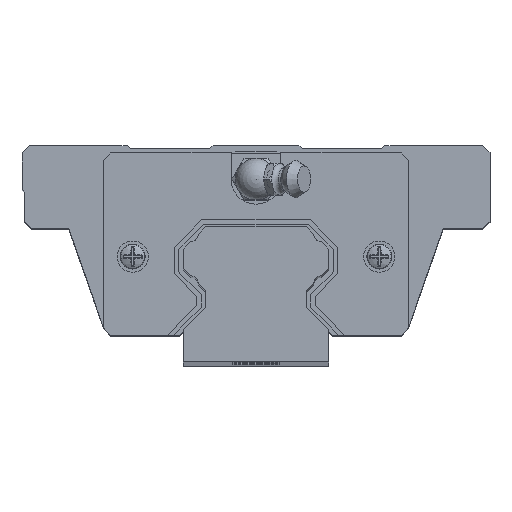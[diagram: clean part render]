
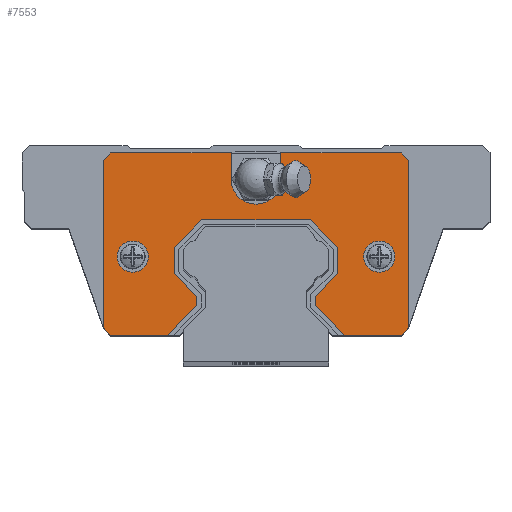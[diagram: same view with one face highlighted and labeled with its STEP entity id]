
A CAD part, top view. The second image highlights one B-rep face of the part: STEP entity #7553.
In plain terms, the highlighted planar face has unit normal (0, 0, 1).
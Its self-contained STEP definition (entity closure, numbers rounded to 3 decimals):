
#586=LINE('',#12169,#1378);
#590=LINE('',#12177,#1382);
#591=LINE('',#12179,#1383);
#592=LINE('',#12181,#1384);
#593=LINE('',#12183,#1385);
#594=LINE('',#12185,#1386);
#595=LINE('',#12187,#1387);
#596=LINE('',#12189,#1388);
#597=LINE('',#12191,#1389);
#598=LINE('',#12193,#1390);
#599=LINE('',#12195,#1391);
#600=LINE('',#12197,#1392);
#601=LINE('',#12199,#1393);
#602=LINE('',#12201,#1394);
#603=LINE('',#12203,#1395);
#604=LINE('',#12205,#1396);
#605=LINE('',#12207,#1397);
#606=LINE('',#12209,#1398);
#607=LINE('',#12213,#1399);
#608=LINE('',#12215,#1400);
#609=LINE('',#12217,#1401);
#610=LINE('',#12219,#1402);
#611=LINE('',#12220,#1403);
#1378=VECTOR('',#9882,1000.);
#1382=VECTOR('',#9888,1000.);
#1383=VECTOR('',#9889,1000.);
#1384=VECTOR('',#9890,1000.);
#1385=VECTOR('',#9891,1000.);
#1386=VECTOR('',#9892,1000.);
#1387=VECTOR('',#9893,1000.);
#1388=VECTOR('',#9894,1000.);
#1389=VECTOR('',#9895,1000.);
#1390=VECTOR('',#9896,1000.);
#1391=VECTOR('',#9897,1000.);
#1392=VECTOR('',#9898,1000.);
#1393=VECTOR('',#9899,1000.);
#1394=VECTOR('',#9900,1000.);
#1395=VECTOR('',#9901,1000.);
#1396=VECTOR('',#9902,1000.);
#1397=VECTOR('',#9903,1000.);
#1398=VECTOR('',#9904,1000.);
#1399=VECTOR('',#9907,1000.);
#1400=VECTOR('',#9908,1000.);
#1401=VECTOR('',#9909,1000.);
#1402=VECTOR('',#9910,1000.);
#1403=VECTOR('',#9911,1000.);
#1851=PLANE('',#8215);
#2139=FACE_BOUND('',#2973,.T.);
#2140=FACE_BOUND('',#2974,.T.);
#2476=FACE_OUTER_BOUND('',#2972,.T.);
#2972=EDGE_LOOP('',(#6602,#6603,#6604,#6605,#6606,#6607,#6608,#6609,#6610,
#6611,#6612,#6613,#6614,#6615,#6616,#6617,#6618,#6619,#6620,#6621,#6622,
#6623,#6624,#6625));
#2973=EDGE_LOOP('',(#6626));
#2974=EDGE_LOOP('',(#6627));
#3297=CIRCLE('',#8192,2.993);
#3299=CIRCLE('',#8195,2.993);
#3315=CIRCLE('',#8216,4.8);
#3865=VERTEX_POINT('',#12118);
#3867=VERTEX_POINT('',#12123);
#3887=VERTEX_POINT('',#12166);
#3888=VERTEX_POINT('',#12168);
#3891=VERTEX_POINT('',#12176);
#3892=VERTEX_POINT('',#12178);
#3893=VERTEX_POINT('',#12180);
#3894=VERTEX_POINT('',#12182);
#3895=VERTEX_POINT('',#12184);
#3896=VERTEX_POINT('',#12186);
#3897=VERTEX_POINT('',#12188);
#3898=VERTEX_POINT('',#12190);
#3899=VERTEX_POINT('',#12192);
#3900=VERTEX_POINT('',#12194);
#3901=VERTEX_POINT('',#12196);
#3902=VERTEX_POINT('',#12198);
#3903=VERTEX_POINT('',#12200);
#3904=VERTEX_POINT('',#12202);
#3905=VERTEX_POINT('',#12204);
#3906=VERTEX_POINT('',#12206);
#3907=VERTEX_POINT('',#12208);
#3908=VERTEX_POINT('',#12210);
#3909=VERTEX_POINT('',#12212);
#3910=VERTEX_POINT('',#12214);
#3911=VERTEX_POINT('',#12216);
#3912=VERTEX_POINT('',#12218);
#4814=EDGE_CURVE('',#3865,#3865,#3297,.T.);
#4816=EDGE_CURVE('',#3867,#3867,#3299,.T.);
#4836=EDGE_CURVE('',#3888,#3887,#586,.T.);
#4840=EDGE_CURVE('',#3887,#3891,#590,.T.);
#4841=EDGE_CURVE('',#3891,#3892,#591,.T.);
#4842=EDGE_CURVE('',#3892,#3893,#592,.T.);
#4843=EDGE_CURVE('',#3893,#3894,#593,.T.);
#4844=EDGE_CURVE('',#3894,#3895,#594,.T.);
#4845=EDGE_CURVE('',#3895,#3896,#595,.T.);
#4846=EDGE_CURVE('',#3896,#3897,#596,.T.);
#4847=EDGE_CURVE('',#3897,#3898,#597,.T.);
#4848=EDGE_CURVE('',#3898,#3899,#598,.T.);
#4849=EDGE_CURVE('',#3899,#3900,#599,.T.);
#4850=EDGE_CURVE('',#3900,#3901,#600,.T.);
#4851=EDGE_CURVE('',#3901,#3902,#601,.T.);
#4852=EDGE_CURVE('',#3902,#3903,#602,.T.);
#4853=EDGE_CURVE('',#3903,#3904,#603,.T.);
#4854=EDGE_CURVE('',#3904,#3905,#604,.T.);
#4855=EDGE_CURVE('',#3905,#3906,#605,.T.);
#4856=EDGE_CURVE('',#3906,#3907,#606,.T.);
#4857=EDGE_CURVE('',#3907,#3908,#3315,.T.);
#4858=EDGE_CURVE('',#3908,#3909,#607,.T.);
#4859=EDGE_CURVE('',#3909,#3910,#608,.T.);
#4860=EDGE_CURVE('',#3910,#3911,#609,.T.);
#4861=EDGE_CURVE('',#3911,#3912,#610,.T.);
#4862=EDGE_CURVE('',#3912,#3888,#611,.T.);
#6602=ORIENTED_EDGE('',*,*,#4840,.T.);
#6603=ORIENTED_EDGE('',*,*,#4841,.T.);
#6604=ORIENTED_EDGE('',*,*,#4842,.T.);
#6605=ORIENTED_EDGE('',*,*,#4843,.T.);
#6606=ORIENTED_EDGE('',*,*,#4844,.T.);
#6607=ORIENTED_EDGE('',*,*,#4845,.T.);
#6608=ORIENTED_EDGE('',*,*,#4846,.T.);
#6609=ORIENTED_EDGE('',*,*,#4847,.T.);
#6610=ORIENTED_EDGE('',*,*,#4848,.T.);
#6611=ORIENTED_EDGE('',*,*,#4849,.T.);
#6612=ORIENTED_EDGE('',*,*,#4850,.T.);
#6613=ORIENTED_EDGE('',*,*,#4851,.T.);
#6614=ORIENTED_EDGE('',*,*,#4852,.T.);
#6615=ORIENTED_EDGE('',*,*,#4853,.T.);
#6616=ORIENTED_EDGE('',*,*,#4854,.T.);
#6617=ORIENTED_EDGE('',*,*,#4855,.T.);
#6618=ORIENTED_EDGE('',*,*,#4856,.T.);
#6619=ORIENTED_EDGE('',*,*,#4857,.T.);
#6620=ORIENTED_EDGE('',*,*,#4858,.T.);
#6621=ORIENTED_EDGE('',*,*,#4859,.T.);
#6622=ORIENTED_EDGE('',*,*,#4860,.T.);
#6623=ORIENTED_EDGE('',*,*,#4861,.T.);
#6624=ORIENTED_EDGE('',*,*,#4862,.T.);
#6625=ORIENTED_EDGE('',*,*,#4836,.T.);
#6626=ORIENTED_EDGE('',*,*,#4816,.T.);
#6627=ORIENTED_EDGE('',*,*,#4814,.F.);
#7553=ADVANCED_FACE('',(#2476,#2139,#2140),#1851,.F.);
#8192=AXIS2_PLACEMENT_3D('',#12119,#9832,#9833);
#8195=AXIS2_PLACEMENT_3D('',#12124,#9838,#9839);
#8215=AXIS2_PLACEMENT_3D('',#12175,#9886,#9887);
#8216=AXIS2_PLACEMENT_3D('',#12211,#9905,#9906);
#9832=DIRECTION('center_axis',(0.,0.,1.));
#9833=DIRECTION('ref_axis',(1.,0.,0.));
#9838=DIRECTION('center_axis',(0.,0.,-1.));
#9839=DIRECTION('ref_axis',(-1.,0.,0.));
#9882=DIRECTION('',(1.,0.,0.));
#9886=DIRECTION('center_axis',(0.,0.,-1.));
#9887=DIRECTION('ref_axis',(-1.,0.,0.));
#9888=DIRECTION('',(0.707,0.707,0.));
#9889=DIRECTION('',(0.,1.,0.));
#9890=DIRECTION('',(-0.707,0.707,0.));
#9891=DIRECTION('',(0.,1.,0.));
#9892=DIRECTION('',(0.707,0.707,0.));
#9893=DIRECTION('',(1.,0.,0.));
#9894=DIRECTION('',(0.707,-0.707,0.));
#9895=DIRECTION('',(0.,-1.,0.));
#9896=DIRECTION('',(-0.707,-0.707,0.));
#9897=DIRECTION('',(0.,-1.,0.));
#9898=DIRECTION('',(0.707,-0.707,0.));
#9899=DIRECTION('',(1.,0.,0.));
#9900=DIRECTION('',(0.707,0.707,0.));
#9901=DIRECTION('',(0.,1.,0.));
#9902=DIRECTION('',(-0.707,0.707,0.));
#9903=DIRECTION('',(-1.,0.,0.));
#9904=DIRECTION('',(0.,-1.,0.));
#9905=DIRECTION('center_axis',(0.,0.,-1.));
#9906=DIRECTION('ref_axis',(-1.,0.,0.));
#9907=DIRECTION('',(0.,1.,0.));
#9908=DIRECTION('',(-1.,0.,0.));
#9909=DIRECTION('',(-0.707,-0.707,0.));
#9910=DIRECTION('',(0.,-1.,0.));
#9911=DIRECTION('',(0.707,-0.707,0.));
#12118=CARTESIAN_POINT('',(-20.723,15.12,49.2));
#12119=CARTESIAN_POINT('Origin',(-23.715,15.12,49.2));
#12123=CARTESIAN_POINT('',(26.708,15.12,49.2));
#12124=CARTESIAN_POINT('Origin',(23.715,15.12,49.2));
#12166=CARTESIAN_POINT('',(-17.076,0.,49.2));
#12168=CARTESIAN_POINT('',(-27.9,0.,49.2));
#12169=CARTESIAN_POINT('',(-27.9,0.,49.2));
#12175=CARTESIAN_POINT('Origin',(0.,-27.9,
49.2));
#12176=CARTESIAN_POINT('',(-11.375,5.701,49.2));
#12177=CARTESIAN_POINT('',(-17.076,0.,49.2));
#12178=CARTESIAN_POINT('',(-11.375,7.504,49.2));
#12179=CARTESIAN_POINT('',(-11.375,5.701,49.2));
#12180=CARTESIAN_POINT('',(-15.68,11.809,49.2));
#12181=CARTESIAN_POINT('',(-11.375,7.504,49.2));
#12182=CARTESIAN_POINT('',(-15.68,16.891,49.2));
#12183=CARTESIAN_POINT('',(-15.68,11.809,49.2));
#12184=CARTESIAN_POINT('',(-10.391,22.18,49.2));
#12185=CARTESIAN_POINT('',(-15.68,16.891,49.2));
#12186=CARTESIAN_POINT('',(10.391,22.18,49.2));
#12187=CARTESIAN_POINT('',(-10.391,22.18,49.2));
#12188=CARTESIAN_POINT('',(15.68,16.891,49.2));
#12189=CARTESIAN_POINT('',(15.68,16.891,49.2));
#12190=CARTESIAN_POINT('',(15.68,11.809,49.2));
#12191=CARTESIAN_POINT('',(15.68,11.809,49.2));
#12192=CARTESIAN_POINT('',(11.375,7.504,49.2));
#12193=CARTESIAN_POINT('',(11.375,7.504,49.2));
#12194=CARTESIAN_POINT('',(11.375,5.701,49.2));
#12195=CARTESIAN_POINT('',(11.375,5.701,49.2));
#12196=CARTESIAN_POINT('',(17.076,0.,49.2));
#12197=CARTESIAN_POINT('',(17.076,0.,49.2));
#12198=CARTESIAN_POINT('',(27.9,0.,49.2));
#12199=CARTESIAN_POINT('',(-27.9,0.,49.2));
#12200=CARTESIAN_POINT('',(29.295,1.395,49.2));
#12201=CARTESIAN_POINT('',(29.295,1.395,49.2));
#12202=CARTESIAN_POINT('',(29.295,33.645,49.2));
#12203=CARTESIAN_POINT('',(29.295,1.395,49.2));
#12204=CARTESIAN_POINT('',(27.9,35.04,49.2));
#12205=CARTESIAN_POINT('',(29.295,33.645,49.2));
#12206=CARTESIAN_POINT('',(4.8,35.04,49.2));
#12207=CARTESIAN_POINT('',(-27.9,35.04,49.2));
#12208=CARTESIAN_POINT('',(4.8,30.,49.2));
#12209=CARTESIAN_POINT('',(4.8,30.,49.2));
#12210=CARTESIAN_POINT('',(-4.8,30.,49.2));
#12211=CARTESIAN_POINT('Origin',(0.,30.,49.2));
#12212=CARTESIAN_POINT('',(-4.8,35.04,49.2));
#12213=CARTESIAN_POINT('',(-4.8,35.04,49.2));
#12214=CARTESIAN_POINT('',(-27.9,35.04,49.2));
#12215=CARTESIAN_POINT('',(-27.9,35.04,49.2));
#12216=CARTESIAN_POINT('',(-29.295,33.645,49.2));
#12217=CARTESIAN_POINT('',(-29.295,33.645,49.2));
#12218=CARTESIAN_POINT('',(-29.295,1.395,49.2));
#12219=CARTESIAN_POINT('',(-29.295,1.395,49.2));
#12220=CARTESIAN_POINT('',(-29.295,1.395,49.2));
